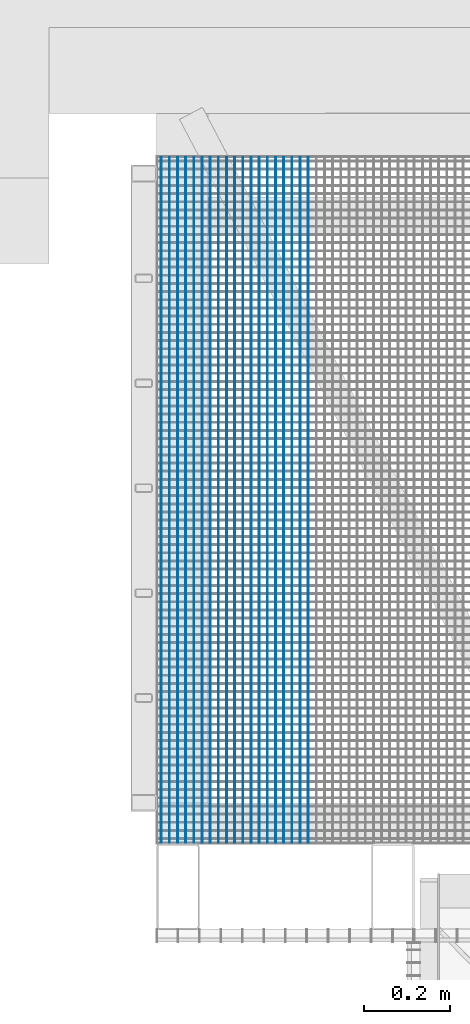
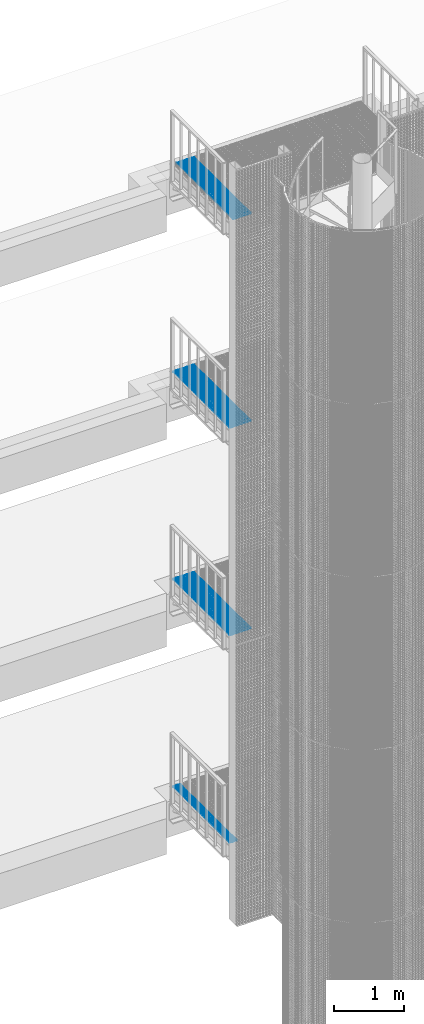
# One storey, part 91 of 1183: 61 beams, 4 elements without a shape of their own.
"""IFC2X3 building model written with IfcOpenShell, lengths in millimetres."""

from ifc_helpers import new_model, si_unit, frame, origin_with_axes, origin_2d_with_axis, place, context, subcontext, project, spatial, rectangle, extrude, material, type_object, element, aggregate, save


model = new_model("IFC2X3")

# Units and contexts
model_context = context("Model", 3, precision=1e-05, world=origin_with_axes())
body_context = subcontext(model_context, "Body", "Model", "MODEL_VIEW")
ifc_project = project(units=[si_unit("LENGTHUNIT", "METRE", prefix="MILLI"), si_unit("AREAUNIT", "SQUARE_METRE"), si_unit("VOLUMEUNIT", "CUBIC_METRE"), si_unit("MASSUNIT", "GRAM", prefix="KILO"), si_unit("TIMEUNIT", "SECOND"), si_unit("PLANEANGLEUNIT", "RADIAN"), si_unit("SOLIDANGLEUNIT", "STERADIAN"), si_unit("THERMODYNAMICTEMPERATUREUNIT", "DEGREE_CELSIUS"), si_unit("LUMINOUSINTENSITYUNIT", "LUMEN")], contexts=[model_context])

# Site, building, storey
site_placement = place(None, origin_with_axes())
site = spatial("IfcSite", under=ifc_project, at=site_placement, Name="Undefined", CompositionType="ELEMENT")
building_placement = place(site_placement, origin_with_axes())
building = spatial("IfcBuilding", under=site, at=building_placement, Name="Undefined", CompositionType="ELEMENT")
storey_placement = place(building_placement, origin_with_axes())
storey = spatial("IfcBuildingStorey", under=building, at=storey_placement, Name="Undefined", CompositionType="ELEMENT", Elevation=0.0)

# Assembly, beams
assembly_1_placement = place(storey_placement, origin_with_axes())
assembly_1 = element("IfcElementAssembly", 1, at=assembly_1_placement, inside=storey, Name="BORDURE", AssemblyPlace="NOTDEFINED", PredefinedType="NOTDEFINED")
ifc_material = material(Name="STEEL/S235JR")
beam_type = type_object("IfcBeamType", Name="PL2*10", PredefinedType="NOTDEFINED")
beam_1_placement = place(assembly_1_placement, frame((20118.1154247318, 1101.99502462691, 17285.0), z_axis=(0.0, 0.0, 1.0), x_axis=(-4.50599999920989e-06, 0.999999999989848, 0.0)))
beam_1 = element("IfcBeam", 2, at=beam_1_placement, type_object=beam_type, material=ifc_material, Name="ENTRETOISE", context=body_context, shape_type="SweptSolid", body=[
    extrude(rectangle(XDim=2.0, YDim=10.0, at=origin_2d_with_axis()), frame((1596.0000000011, -1.35186458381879e-18, -7.27595761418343e-12), z_axis=(-1.0, 0.0, 0.0), x_axis=(0.0, -1.0, 0.0)), (0.0, 0.0, 1.0), 1596.0),
])
beam_2_placement = place(assembly_1_placement, frame((20137.1154247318, 1101.99511814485, 17285.0), z_axis=(0.0, 0.0, 1.0), x_axis=(-4.50599999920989e-06, 0.999999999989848, 0.0)))
beam_2 = element("IfcBeam", 3, at=beam_2_placement, type_object=beam_type, material=ifc_material, Name="ENTRETOISE", context=body_context, shape_type="SweptSolid", body=[
    extrude(rectangle(XDim=2.0, YDim=10.0, at=origin_2d_with_axis()), frame((1596.0000000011, -1.35186458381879e-18, -7.27595761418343e-12), z_axis=(-1.0, 0.0, 0.0), x_axis=(0.0, -1.0, 0.0)), (0.0, 0.0, 1.0), 1596.0),
])
beam_3_placement = place(assembly_1_placement, frame((20156.1154247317, 1101.9952116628, 17285.0), z_axis=(0.0, 0.0, 1.0), x_axis=(-4.50599999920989e-06, 0.999999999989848, 0.0)))
beam_3 = element("IfcBeam", 4, at=beam_3_placement, type_object=beam_type, material=ifc_material, Name="ENTRETOISE", context=body_context, shape_type="SweptSolid", body=[
    extrude(rectangle(XDim=2.0, YDim=10.0, at=origin_2d_with_axis()), frame((1596.0000000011, -1.35186458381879e-18, -7.27595761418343e-12), z_axis=(-1.0, 0.0, 0.0), x_axis=(0.0, -1.0, 0.0)), (0.0, 0.0, 1.0), 1596.0),
])
beam_4_placement = place(assembly_1_placement, frame((20175.1154247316, 1101.99530518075, 17285.0), z_axis=(0.0, 0.0, 1.0), x_axis=(-4.50599999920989e-06, 0.999999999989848, 0.0)))
beam_4 = element("IfcBeam", 5, at=beam_4_placement, type_object=beam_type, material=ifc_material, Name="ENTRETOISE", context=body_context, shape_type="SweptSolid", body=[
    extrude(rectangle(XDim=2.0, YDim=10.0, at=origin_2d_with_axis()), frame((1596.0000000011, -1.35186458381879e-18, -7.27595761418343e-12), z_axis=(-1.0, 0.0, 0.0), x_axis=(0.0, -1.0, 0.0)), (0.0, 0.0, 1.0), 1596.0),
])
beam_5_placement = place(assembly_1_placement, frame((20194.1154247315, 1101.9953986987, 17285.0), z_axis=(0.0, 0.0, 1.0), x_axis=(-4.50599999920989e-06, 0.999999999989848, 0.0)))
beam_5 = element("IfcBeam", 6, at=beam_5_placement, type_object=beam_type, material=ifc_material, Name="ENTRETOISE", context=body_context, shape_type="SweptSolid", body=[
    extrude(rectangle(XDim=2.0, YDim=10.0, at=origin_2d_with_axis()), frame((1596.0000000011, -1.35186458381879e-18, -7.27595761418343e-12), z_axis=(-1.0, 0.0, 0.0), x_axis=(0.0, -1.0, 0.0)), (0.0, 0.0, 1.0), 1596.0),
])
beam_6_placement = place(assembly_1_placement, frame((20213.1154247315, 1101.99549221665, 17285.0), z_axis=(0.0, 0.0, 1.0), x_axis=(-4.50599999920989e-06, 0.999999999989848, 0.0)))
beam_6 = element("IfcBeam", 7, at=beam_6_placement, type_object=beam_type, material=ifc_material, Name="ENTRETOISE", context=body_context, shape_type="SweptSolid", body=[
    extrude(rectangle(XDim=2.0, YDim=10.0, at=origin_2d_with_axis()), frame((1596.0000000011, -1.35186458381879e-18, -7.27595761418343e-12), z_axis=(-1.0, 0.0, 0.0), x_axis=(0.0, -1.0, 0.0)), (0.0, 0.0, 1.0), 1596.0),
])
beam_7_placement = place(assembly_1_placement, frame((20232.1154247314, 1101.9955857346, 17285.0), z_axis=(0.0, 0.0, 1.0), x_axis=(-4.50599999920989e-06, 0.999999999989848, 0.0)))
beam_7 = element("IfcBeam", 8, at=beam_7_placement, type_object=beam_type, material=ifc_material, Name="ENTRETOISE", context=body_context, shape_type="SweptSolid", body=[
    extrude(rectangle(XDim=2.0, YDim=10.0, at=origin_2d_with_axis()), frame((1596.0000000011, -1.35186458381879e-18, -7.27595761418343e-12), z_axis=(-1.0, 0.0, 0.0), x_axis=(0.0, -1.0, 0.0)), (0.0, 0.0, 1.0), 1596.0),
])
beam_8_placement = place(assembly_1_placement, frame((20251.1154247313, 1101.99567925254, 17285.0), z_axis=(0.0, 0.0, 1.0), x_axis=(-4.50599999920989e-06, 0.999999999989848, 0.0)))
beam_8 = element("IfcBeam", 9, at=beam_8_placement, type_object=beam_type, material=ifc_material, Name="ENTRETOISE", context=body_context, shape_type="SweptSolid", body=[
    extrude(rectangle(XDim=2.0, YDim=10.0, at=origin_2d_with_axis()), frame((1596.0000000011, -1.35186458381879e-18, -7.27595761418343e-12), z_axis=(-1.0, 0.0, 0.0), x_axis=(0.0, -1.0, 0.0)), (0.0, 0.0, 1.0), 1596.0),
])
beam_9_placement = place(assembly_1_placement, frame((20270.1154247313, 1101.99577277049, 17285.0), z_axis=(0.0, 0.0, 1.0), x_axis=(-4.50599999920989e-06, 0.999999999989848, 0.0)))
beam_9 = element("IfcBeam", 10, at=beam_9_placement, type_object=beam_type, material=ifc_material, Name="ENTRETOISE", context=body_context, shape_type="SweptSolid", body=[
    extrude(rectangle(XDim=2.0, YDim=10.0, at=origin_2d_with_axis()), frame((1596.0000000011, -1.35186458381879e-18, -7.27595761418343e-12), z_axis=(-1.0, 0.0, 0.0), x_axis=(0.0, -1.0, 0.0)), (0.0, 0.0, 1.0), 1596.0),
])
beam_10_placement = place(assembly_1_placement, frame((20289.1154247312, 1101.99586628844, 17285.0), z_axis=(0.0, 0.0, 1.0), x_axis=(-4.50599999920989e-06, 0.999999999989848, 0.0)))
beam_10 = element("IfcBeam", 11, at=beam_10_placement, type_object=beam_type, material=ifc_material, Name="ENTRETOISE", context=body_context, shape_type="SweptSolid", body=[
    extrude(rectangle(XDim=2.0, YDim=10.0, at=origin_2d_with_axis()), frame((1596.0000000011, -1.35186458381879e-18, -7.27595761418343e-12), z_axis=(-1.0, 0.0, 0.0), x_axis=(0.0, -1.0, 0.0)), (0.0, 0.0, 1.0), 1596.0),
])
beam_11_placement = place(assembly_1_placement, frame((20308.1154247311, 1101.99595980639, 17285.0), z_axis=(0.0, 0.0, 1.0), x_axis=(-4.50599999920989e-06, 0.999999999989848, 0.0)))
beam_11 = element("IfcBeam", 12, at=beam_11_placement, type_object=beam_type, material=ifc_material, Name="ENTRETOISE", context=body_context, shape_type="SweptSolid", body=[
    extrude(rectangle(XDim=2.0, YDim=10.0, at=origin_2d_with_axis()), frame((1596.0000000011, -1.35186458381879e-18, -7.27595761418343e-12), z_axis=(-1.0, 0.0, 0.0), x_axis=(0.0, -1.0, 0.0)), (0.0, 0.0, 1.0), 1596.0),
])
beam_12_placement = place(assembly_1_placement, frame((20327.1154247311, 1101.99605332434, 17285.0), z_axis=(0.0, 0.0, 1.0), x_axis=(-4.50599999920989e-06, 0.999999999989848, 0.0)))
beam_12 = element("IfcBeam", 13, at=beam_12_placement, type_object=beam_type, material=ifc_material, Name="ENTRETOISE", context=body_context, shape_type="SweptSolid", body=[
    extrude(rectangle(XDim=2.0, YDim=10.0, at=origin_2d_with_axis()), frame((1596.0000000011, -1.35186458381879e-18, -7.27595761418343e-12), z_axis=(-1.0, 0.0, 0.0), x_axis=(0.0, -1.0, 0.0)), (0.0, 0.0, 1.0), 1596.0),
])
beam_13_placement = place(assembly_1_placement, frame((20346.115424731, 1101.99614684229, 17285.0), z_axis=(0.0, 0.0, 1.0), x_axis=(-4.50599999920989e-06, 0.999999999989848, 0.0)))
beam_13 = element("IfcBeam", 14, at=beam_13_placement, type_object=beam_type, material=ifc_material, Name="ENTRETOISE", context=body_context, shape_type="SweptSolid", body=[
    extrude(rectangle(XDim=2.0, YDim=10.0, at=origin_2d_with_axis()), frame((1596.0000000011, -1.35186458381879e-18, -7.27595761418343e-12), z_axis=(-1.0, 0.0, 0.0), x_axis=(0.0, -1.0, 0.0)), (0.0, 0.0, 1.0), 1596.0),
])
beam_14_placement = place(assembly_1_placement, frame((20365.1154247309, 1101.99624036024, 17285.0), z_axis=(0.0, 0.0, 1.0), x_axis=(-4.50599999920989e-06, 0.999999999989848, 0.0)))
beam_14 = element("IfcBeam", 15, at=beam_14_placement, type_object=beam_type, material=ifc_material, Name="ENTRETOISE", context=body_context, shape_type="SweptSolid", body=[
    extrude(rectangle(XDim=2.0, YDim=10.0, at=origin_2d_with_axis()), frame((1596.0000000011, -1.35186458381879e-18, -7.27595761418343e-12), z_axis=(-1.0, 0.0, 0.0), x_axis=(0.0, -1.0, 0.0)), (0.0, 0.0, 1.0), 1596.0),
])
beam_15_placement = place(assembly_1_placement, frame((20384.1154247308, 1101.99633387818, 17285.0), z_axis=(0.0, 0.0, 1.0), x_axis=(-4.50599999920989e-06, 0.999999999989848, 0.0)))
beam_15 = element("IfcBeam", 16, at=beam_15_placement, type_object=beam_type, material=ifc_material, Name="ENTRETOISE", context=body_context, shape_type="SweptSolid", body=[
    extrude(rectangle(XDim=2.0, YDim=10.0, at=origin_2d_with_axis()), frame((1596.0000000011, -1.35186458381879e-18, -7.27595761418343e-12), z_axis=(-1.0, 0.0, 0.0), x_axis=(0.0, -1.0, 0.0)), (0.0, 0.0, 1.0), 1596.0),
])
beam_16_placement = place(assembly_1_placement, frame((20403.1154247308, 1101.99642739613, 17285.0), z_axis=(0.0, 0.0, 1.0), x_axis=(-4.50599999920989e-06, 0.999999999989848, 0.0)))
beam_16 = element("IfcBeam", 17, at=beam_16_placement, type_object=beam_type, material=ifc_material, Name="ENTRETOISE", context=body_context, shape_type="SweptSolid", body=[
    extrude(rectangle(XDim=2.0, YDim=10.0, at=origin_2d_with_axis()), frame((1596.0000000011, -1.35186458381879e-18, -7.27595761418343e-12), z_axis=(-1.0, 0.0, 0.0), x_axis=(0.0, -1.0, 0.0)), (0.0, 0.0, 1.0), 1596.0),
])
aggregate(assembly_1, [beam_1, beam_2, beam_3, beam_4, beam_5, beam_6, beam_7, beam_8, beam_9, beam_10, beam_11, beam_12, beam_13, beam_14, beam_15, beam_16])

assembly_2_placement = place(storey_placement, origin_with_axes())
assembly_2 = element("IfcElementAssembly", 18, at=assembly_2_placement, inside=storey, Name="BORDURE", AssemblyPlace="NOTDEFINED", PredefinedType="NOTDEFINED")
beam_17_placement = place(assembly_2_placement, frame((20061.115424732, 1101.99474407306, 13685.0), z_axis=(0.0, 0.0, 1.0), x_axis=(-4.50599999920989e-06, 0.999999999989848, 0.0)))
beam_17 = element("IfcBeam", 19, at=beam_17_placement, type_object=beam_type, material=ifc_material, Name="ENTRETOISE", context=body_context, shape_type="SweptSolid", body=[
    extrude(rectangle(XDim=2.0, YDim=10.0, at=origin_2d_with_axis()), frame((1596.0000000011, -1.35186458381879e-18, -7.27595761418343e-12), z_axis=(-1.0, 0.0, 0.0), x_axis=(0.0, -1.0, 0.0)), (0.0, 0.0, 1.0), 1596.0),
])
beam_18_placement = place(assembly_2_placement, frame((20080.115424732, 1101.99483759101, 13685.0), z_axis=(0.0, 0.0, 1.0), x_axis=(-4.50599999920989e-06, 0.999999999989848, 0.0)))
beam_18 = element("IfcBeam", 20, at=beam_18_placement, type_object=beam_type, material=ifc_material, Name="ENTRETOISE", context=body_context, shape_type="SweptSolid", body=[
    extrude(rectangle(XDim=2.0, YDim=10.0, at=origin_2d_with_axis()), frame((1596.0000000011, -1.35186458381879e-18, -7.27595761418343e-12), z_axis=(-1.0, 0.0, 0.0), x_axis=(0.0, -1.0, 0.0)), (0.0, 0.0, 1.0), 1596.0),
])
beam_19_placement = place(assembly_2_placement, frame((20099.1154247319, 1101.99493110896, 13685.0), z_axis=(0.0, 0.0, 1.0), x_axis=(-4.50599999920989e-06, 0.999999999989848, 0.0)))
beam_19 = element("IfcBeam", 21, at=beam_19_placement, type_object=beam_type, material=ifc_material, Name="ENTRETOISE", context=body_context, shape_type="SweptSolid", body=[
    extrude(rectangle(XDim=2.0, YDim=10.0, at=origin_2d_with_axis()), frame((1596.0000000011, -1.35186458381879e-18, -7.27595761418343e-12), z_axis=(-1.0, 0.0, 0.0), x_axis=(0.0, -1.0, 0.0)), (0.0, 0.0, 1.0), 1596.0),
])
beam_20_placement = place(assembly_2_placement, frame((20118.1154247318, 1101.99502462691, 13685.0), z_axis=(0.0, 0.0, 1.0), x_axis=(-4.50599999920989e-06, 0.999999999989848, 0.0)))
beam_20 = element("IfcBeam", 22, at=beam_20_placement, type_object=beam_type, material=ifc_material, Name="ENTRETOISE", context=body_context, shape_type="SweptSolid", body=[
    extrude(rectangle(XDim=2.0, YDim=10.0, at=origin_2d_with_axis()), frame((1596.0000000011, -1.35186458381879e-18, -7.27595761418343e-12), z_axis=(-1.0, 0.0, 0.0), x_axis=(0.0, -1.0, 0.0)), (0.0, 0.0, 1.0), 1596.0),
])
beam_21_placement = place(assembly_2_placement, frame((20137.1154247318, 1101.99511814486, 13685.0), z_axis=(0.0, 0.0, 1.0), x_axis=(-4.50599999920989e-06, 0.999999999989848, 0.0)))
beam_21 = element("IfcBeam", 23, at=beam_21_placement, type_object=beam_type, material=ifc_material, Name="ENTRETOISE", context=body_context, shape_type="SweptSolid", body=[
    extrude(rectangle(XDim=2.0, YDim=10.0, at=origin_2d_with_axis()), frame((1596.0000000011, -1.35186458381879e-18, -7.27595761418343e-12), z_axis=(-1.0, 0.0, 0.0), x_axis=(0.0, -1.0, 0.0)), (0.0, 0.0, 1.0), 1596.0),
])
beam_22_placement = place(assembly_2_placement, frame((20156.1154247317, 1101.9952116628, 13685.0), z_axis=(0.0, 0.0, 1.0), x_axis=(-4.50599999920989e-06, 0.999999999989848, 0.0)))
beam_22 = element("IfcBeam", 24, at=beam_22_placement, type_object=beam_type, material=ifc_material, Name="ENTRETOISE", context=body_context, shape_type="SweptSolid", body=[
    extrude(rectangle(XDim=2.0, YDim=10.0, at=origin_2d_with_axis()), frame((1596.0000000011, -1.35186458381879e-18, -7.27595761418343e-12), z_axis=(-1.0, 0.0, 0.0), x_axis=(0.0, -1.0, 0.0)), (0.0, 0.0, 1.0), 1596.0),
])
beam_23_placement = place(assembly_2_placement, frame((20175.1154247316, 1101.99530518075, 13685.0), z_axis=(0.0, 0.0, 1.0), x_axis=(-4.50599999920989e-06, 0.999999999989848, 0.0)))
beam_23 = element("IfcBeam", 25, at=beam_23_placement, type_object=beam_type, material=ifc_material, Name="ENTRETOISE", context=body_context, shape_type="SweptSolid", body=[
    extrude(rectangle(XDim=2.0, YDim=10.0, at=origin_2d_with_axis()), frame((1596.0000000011, -1.35186458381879e-18, -7.27595761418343e-12), z_axis=(-1.0, 0.0, 0.0), x_axis=(0.0, -1.0, 0.0)), (0.0, 0.0, 1.0), 1596.0),
])
beam_24_placement = place(assembly_2_placement, frame((20194.1154247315, 1101.9953986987, 13685.0), z_axis=(0.0, 0.0, 1.0), x_axis=(-4.50599999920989e-06, 0.999999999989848, 0.0)))
beam_24 = element("IfcBeam", 26, at=beam_24_placement, type_object=beam_type, material=ifc_material, Name="ENTRETOISE", context=body_context, shape_type="SweptSolid", body=[
    extrude(rectangle(XDim=2.0, YDim=10.0, at=origin_2d_with_axis()), frame((1596.0000000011, -1.35186458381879e-18, -7.27595761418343e-12), z_axis=(-1.0, 0.0, 0.0), x_axis=(0.0, -1.0, 0.0)), (0.0, 0.0, 1.0), 1596.0),
])
beam_25_placement = place(assembly_2_placement, frame((20213.1154247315, 1101.99549221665, 13685.0), z_axis=(0.0, 0.0, 1.0), x_axis=(-4.50599999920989e-06, 0.999999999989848, 0.0)))
beam_25 = element("IfcBeam", 27, at=beam_25_placement, type_object=beam_type, material=ifc_material, Name="ENTRETOISE", context=body_context, shape_type="SweptSolid", body=[
    extrude(rectangle(XDim=2.0, YDim=10.0, at=origin_2d_with_axis()), frame((1596.0000000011, -1.35186458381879e-18, -7.27595761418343e-12), z_axis=(-1.0, 0.0, 0.0), x_axis=(0.0, -1.0, 0.0)), (0.0, 0.0, 1.0), 1596.0),
])
beam_26_placement = place(assembly_2_placement, frame((20232.1154247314, 1101.9955857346, 13685.0), z_axis=(0.0, 0.0, 1.0), x_axis=(-4.50599999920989e-06, 0.999999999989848, 0.0)))
beam_26 = element("IfcBeam", 28, at=beam_26_placement, type_object=beam_type, material=ifc_material, Name="ENTRETOISE", context=body_context, shape_type="SweptSolid", body=[
    extrude(rectangle(XDim=2.0, YDim=10.0, at=origin_2d_with_axis()), frame((1596.0000000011, -1.35186458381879e-18, -7.27595761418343e-12), z_axis=(-1.0, 0.0, 0.0), x_axis=(0.0, -1.0, 0.0)), (0.0, 0.0, 1.0), 1596.0),
])
beam_27_placement = place(assembly_2_placement, frame((20251.1154247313, 1101.99567925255, 13685.0), z_axis=(0.0, 0.0, 1.0), x_axis=(-4.50599999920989e-06, 0.999999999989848, 0.0)))
beam_27 = element("IfcBeam", 29, at=beam_27_placement, type_object=beam_type, material=ifc_material, Name="ENTRETOISE", context=body_context, shape_type="SweptSolid", body=[
    extrude(rectangle(XDim=2.0, YDim=10.0, at=origin_2d_with_axis()), frame((1596.0000000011, -1.35186458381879e-18, -7.27595761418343e-12), z_axis=(-1.0, 0.0, 0.0), x_axis=(0.0, -1.0, 0.0)), (0.0, 0.0, 1.0), 1596.0),
])
beam_28_placement = place(assembly_2_placement, frame((20270.1154247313, 1101.99577277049, 13685.0), z_axis=(0.0, 0.0, 1.0), x_axis=(-4.50599999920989e-06, 0.999999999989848, 0.0)))
beam_28 = element("IfcBeam", 30, at=beam_28_placement, type_object=beam_type, material=ifc_material, Name="ENTRETOISE", context=body_context, shape_type="SweptSolid", body=[
    extrude(rectangle(XDim=2.0, YDim=10.0, at=origin_2d_with_axis()), frame((1596.0000000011, -1.35186458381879e-18, -7.27595761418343e-12), z_axis=(-1.0, 0.0, 0.0), x_axis=(0.0, -1.0, 0.0)), (0.0, 0.0, 1.0), 1596.0),
])
beam_29_placement = place(assembly_2_placement, frame((20289.1154247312, 1101.99586628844, 13685.0), z_axis=(0.0, 0.0, 1.0), x_axis=(-4.50599999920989e-06, 0.999999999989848, 0.0)))
beam_29 = element("IfcBeam", 31, at=beam_29_placement, type_object=beam_type, material=ifc_material, Name="ENTRETOISE", context=body_context, shape_type="SweptSolid", body=[
    extrude(rectangle(XDim=2.0, YDim=10.0, at=origin_2d_with_axis()), frame((1596.0000000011, -1.35186458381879e-18, -7.27595761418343e-12), z_axis=(-1.0, 0.0, 0.0), x_axis=(0.0, -1.0, 0.0)), (0.0, 0.0, 1.0), 1596.0),
])
beam_30_placement = place(assembly_2_placement, frame((20308.1154247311, 1101.99595980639, 13685.0), z_axis=(0.0, 0.0, 1.0), x_axis=(-4.50599999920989e-06, 0.999999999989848, 0.0)))
beam_30 = element("IfcBeam", 32, at=beam_30_placement, type_object=beam_type, material=ifc_material, Name="ENTRETOISE", context=body_context, shape_type="SweptSolid", body=[
    extrude(rectangle(XDim=2.0, YDim=10.0, at=origin_2d_with_axis()), frame((1596.0000000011, -1.35186458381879e-18, -7.27595761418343e-12), z_axis=(-1.0, 0.0, 0.0), x_axis=(0.0, -1.0, 0.0)), (0.0, 0.0, 1.0), 1596.0),
])
beam_31_placement = place(assembly_2_placement, frame((20327.1154247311, 1101.99605332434, 13685.0), z_axis=(0.0, 0.0, 1.0), x_axis=(-4.50599999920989e-06, 0.999999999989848, 0.0)))
beam_31 = element("IfcBeam", 33, at=beam_31_placement, type_object=beam_type, material=ifc_material, Name="ENTRETOISE", context=body_context, shape_type="SweptSolid", body=[
    extrude(rectangle(XDim=2.0, YDim=10.0, at=origin_2d_with_axis()), frame((1596.0000000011, -1.35186458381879e-18, -7.27595761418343e-12), z_axis=(-1.0, 0.0, 0.0), x_axis=(0.0, -1.0, 0.0)), (0.0, 0.0, 1.0), 1596.0),
])
beam_32_placement = place(assembly_2_placement, frame((20346.115424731, 1101.99614684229, 13685.0), z_axis=(0.0, 0.0, 1.0), x_axis=(-4.50599999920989e-06, 0.999999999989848, 0.0)))
beam_32 = element("IfcBeam", 34, at=beam_32_placement, type_object=beam_type, material=ifc_material, Name="ENTRETOISE", context=body_context, shape_type="SweptSolid", body=[
    extrude(rectangle(XDim=2.0, YDim=10.0, at=origin_2d_with_axis()), frame((1596.0000000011, -1.35186458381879e-18, -7.27595761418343e-12), z_axis=(-1.0, 0.0, 0.0), x_axis=(0.0, -1.0, 0.0)), (0.0, 0.0, 1.0), 1596.0),
])
beam_33_placement = place(assembly_2_placement, frame((20365.1154247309, 1101.99624036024, 13685.0), z_axis=(0.0, 0.0, 1.0), x_axis=(-4.50599999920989e-06, 0.999999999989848, 0.0)))
beam_33 = element("IfcBeam", 35, at=beam_33_placement, type_object=beam_type, material=ifc_material, Name="ENTRETOISE", context=body_context, shape_type="SweptSolid", body=[
    extrude(rectangle(XDim=2.0, YDim=10.0, at=origin_2d_with_axis()), frame((1596.0000000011, -1.35186458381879e-18, -7.27595761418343e-12), z_axis=(-1.0, 0.0, 0.0), x_axis=(0.0, -1.0, 0.0)), (0.0, 0.0, 1.0), 1596.0),
])
beam_34_placement = place(assembly_2_placement, frame((20384.1154247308, 1101.99633387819, 13685.0), z_axis=(0.0, 0.0, 1.0), x_axis=(-4.50599999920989e-06, 0.999999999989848, 0.0)))
beam_34 = element("IfcBeam", 36, at=beam_34_placement, type_object=beam_type, material=ifc_material, Name="ENTRETOISE", context=body_context, shape_type="SweptSolid", body=[
    extrude(rectangle(XDim=2.0, YDim=10.0, at=origin_2d_with_axis()), frame((1596.0000000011, -1.35186458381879e-18, -7.27595761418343e-12), z_axis=(-1.0, 0.0, 0.0), x_axis=(0.0, -1.0, 0.0)), (0.0, 0.0, 1.0), 1596.0),
])
beam_35_placement = place(assembly_2_placement, frame((20403.1154247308, 1101.99642739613, 13685.0), z_axis=(0.0, 0.0, 1.0), x_axis=(-4.50599999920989e-06, 0.999999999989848, 0.0)))
beam_35 = element("IfcBeam", 37, at=beam_35_placement, type_object=beam_type, material=ifc_material, Name="ENTRETOISE", context=body_context, shape_type="SweptSolid", body=[
    extrude(rectangle(XDim=2.0, YDim=10.0, at=origin_2d_with_axis()), frame((1596.0000000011, -1.35186458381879e-18, -7.27595761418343e-12), z_axis=(-1.0, 0.0, 0.0), x_axis=(0.0, -1.0, 0.0)), (0.0, 0.0, 1.0), 1596.0),
])
aggregate(assembly_2, [beam_17, beam_18, beam_19, beam_20, beam_21, beam_22, beam_23, beam_24, beam_25, beam_26, beam_27, beam_28, beam_29, beam_30, beam_31, beam_32, beam_33, beam_34, beam_35])

assembly_3_placement = place(storey_placement, origin_with_axes())
assembly_3 = element("IfcElementAssembly", 38, at=assembly_3_placement, inside=storey, Name="BORDURE", AssemblyPlace="NOTDEFINED", PredefinedType="NOTDEFINED")
beam_36_placement = place(assembly_3_placement, frame((20061.115424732, 1101.99474407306, 10085.0), z_axis=(0.0, 0.0, 1.0), x_axis=(-4.50599999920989e-06, 0.999999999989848, 0.0)))
beam_36 = element("IfcBeam", 39, at=beam_36_placement, type_object=beam_type, material=ifc_material, Name="ENTRETOISE", context=body_context, shape_type="SweptSolid", body=[
    extrude(rectangle(XDim=2.0, YDim=10.0, at=origin_2d_with_axis()), frame((1596.0000000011, -1.35186458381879e-18, -7.27595761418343e-12), z_axis=(-1.0, 0.0, 0.0), x_axis=(0.0, -1.0, 0.0)), (0.0, 0.0, 1.0), 1596.0),
])
beam_37_placement = place(assembly_3_placement, frame((20080.115424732, 1101.99483759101, 10085.0), z_axis=(0.0, 0.0, 1.0), x_axis=(-4.50599999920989e-06, 0.999999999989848, 0.0)))
beam_37 = element("IfcBeam", 40, at=beam_37_placement, type_object=beam_type, material=ifc_material, Name="ENTRETOISE", context=body_context, shape_type="SweptSolid", body=[
    extrude(rectangle(XDim=2.0, YDim=10.0, at=origin_2d_with_axis()), frame((1596.0000000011, -1.35186458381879e-18, -7.27595761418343e-12), z_axis=(-1.0, 0.0, 0.0), x_axis=(0.0, -1.0, 0.0)), (0.0, 0.0, 1.0), 1596.0),
])
beam_38_placement = place(assembly_3_placement, frame((20099.1154247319, 1101.99493110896, 10085.0), z_axis=(0.0, 0.0, 1.0), x_axis=(-4.50599999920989e-06, 0.999999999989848, 0.0)))
beam_38 = element("IfcBeam", 41, at=beam_38_placement, type_object=beam_type, material=ifc_material, Name="ENTRETOISE", context=body_context, shape_type="SweptSolid", body=[
    extrude(rectangle(XDim=2.0, YDim=10.0, at=origin_2d_with_axis()), frame((1596.0000000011, -1.35186458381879e-18, -7.27595761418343e-12), z_axis=(-1.0, 0.0, 0.0), x_axis=(0.0, -1.0, 0.0)), (0.0, 0.0, 1.0), 1596.0),
])
beam_39_placement = place(assembly_3_placement, frame((20118.1154247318, 1101.99502462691, 10085.0), z_axis=(0.0, 0.0, 1.0), x_axis=(-4.50599999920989e-06, 0.999999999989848, 0.0)))
beam_39 = element("IfcBeam", 42, at=beam_39_placement, type_object=beam_type, material=ifc_material, Name="ENTRETOISE", context=body_context, shape_type="SweptSolid", body=[
    extrude(rectangle(XDim=2.0, YDim=10.0, at=origin_2d_with_axis()), frame((1596.0000000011, -1.35186458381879e-18, -7.27595761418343e-12), z_axis=(-1.0, 0.0, 0.0), x_axis=(0.0, -1.0, 0.0)), (0.0, 0.0, 1.0), 1596.0),
])
beam_40_placement = place(assembly_3_placement, frame((20137.1154247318, 1101.99511814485, 10085.0), z_axis=(0.0, 0.0, 1.0), x_axis=(-4.50599999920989e-06, 0.999999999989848, 0.0)))
beam_40 = element("IfcBeam", 43, at=beam_40_placement, type_object=beam_type, material=ifc_material, Name="ENTRETOISE", context=body_context, shape_type="SweptSolid", body=[
    extrude(rectangle(XDim=2.0, YDim=10.0, at=origin_2d_with_axis()), frame((1596.0000000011, -1.35186458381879e-18, -7.27595761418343e-12), z_axis=(-1.0, 0.0, 0.0), x_axis=(0.0, -1.0, 0.0)), (0.0, 0.0, 1.0), 1596.0),
])
beam_41_placement = place(assembly_3_placement, frame((20156.1154247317, 1101.9952116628, 10085.0), z_axis=(0.0, 0.0, 1.0), x_axis=(-4.50599999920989e-06, 0.999999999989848, 0.0)))
beam_41 = element("IfcBeam", 44, at=beam_41_placement, type_object=beam_type, material=ifc_material, Name="ENTRETOISE", context=body_context, shape_type="SweptSolid", body=[
    extrude(rectangle(XDim=2.0, YDim=10.0, at=origin_2d_with_axis()), frame((1596.0000000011, -1.35186458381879e-18, -7.27595761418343e-12), z_axis=(-1.0, 0.0, 0.0), x_axis=(0.0, -1.0, 0.0)), (0.0, 0.0, 1.0), 1596.0),
])
beam_42_placement = place(assembly_3_placement, frame((20175.1154247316, 1101.99530518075, 10085.0), z_axis=(0.0, 0.0, 1.0), x_axis=(-4.50599999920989e-06, 0.999999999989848, 0.0)))
beam_42 = element("IfcBeam", 45, at=beam_42_placement, type_object=beam_type, material=ifc_material, Name="ENTRETOISE", context=body_context, shape_type="SweptSolid", body=[
    extrude(rectangle(XDim=2.0, YDim=10.0, at=origin_2d_with_axis()), frame((1596.0000000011, -1.35186458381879e-18, -7.27595761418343e-12), z_axis=(-1.0, 0.0, 0.0), x_axis=(0.0, -1.0, 0.0)), (0.0, 0.0, 1.0), 1596.0),
])
beam_43_placement = place(assembly_3_placement, frame((20194.1154247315, 1101.9953986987, 10085.0), z_axis=(0.0, 0.0, 1.0), x_axis=(-4.50599999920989e-06, 0.999999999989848, 0.0)))
beam_43 = element("IfcBeam", 46, at=beam_43_placement, type_object=beam_type, material=ifc_material, Name="ENTRETOISE", context=body_context, shape_type="SweptSolid", body=[
    extrude(rectangle(XDim=2.0, YDim=10.0, at=origin_2d_with_axis()), frame((1596.0000000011, -1.35186458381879e-18, -7.27595761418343e-12), z_axis=(-1.0, 0.0, 0.0), x_axis=(0.0, -1.0, 0.0)), (0.0, 0.0, 1.0), 1596.0),
])
beam_44_placement = place(assembly_3_placement, frame((20213.1154247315, 1101.99549221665, 10085.0), z_axis=(0.0, 0.0, 1.0), x_axis=(-4.50599999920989e-06, 0.999999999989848, 0.0)))
beam_44 = element("IfcBeam", 47, at=beam_44_placement, type_object=beam_type, material=ifc_material, Name="ENTRETOISE", context=body_context, shape_type="SweptSolid", body=[
    extrude(rectangle(XDim=2.0, YDim=10.0, at=origin_2d_with_axis()), frame((1596.0000000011, -1.35186458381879e-18, -7.27595761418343e-12), z_axis=(-1.0, 0.0, 0.0), x_axis=(0.0, -1.0, 0.0)), (0.0, 0.0, 1.0), 1596.0),
])
beam_45_placement = place(assembly_3_placement, frame((20232.1154247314, 1101.9955857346, 10085.0), z_axis=(0.0, 0.0, 1.0), x_axis=(-4.50599999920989e-06, 0.999999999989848, 0.0)))
beam_45 = element("IfcBeam", 48, at=beam_45_placement, type_object=beam_type, material=ifc_material, Name="ENTRETOISE", context=body_context, shape_type="SweptSolid", body=[
    extrude(rectangle(XDim=2.0, YDim=10.0, at=origin_2d_with_axis()), frame((1596.0000000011, -1.35186458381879e-18, -7.27595761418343e-12), z_axis=(-1.0, 0.0, 0.0), x_axis=(0.0, -1.0, 0.0)), (0.0, 0.0, 1.0), 1596.0),
])
beam_46_placement = place(assembly_3_placement, frame((20251.1154247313, 1101.99567925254, 10085.0), z_axis=(0.0, 0.0, 1.0), x_axis=(-4.50599999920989e-06, 0.999999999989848, 0.0)))
beam_46 = element("IfcBeam", 49, at=beam_46_placement, type_object=beam_type, material=ifc_material, Name="ENTRETOISE", context=body_context, shape_type="SweptSolid", body=[
    extrude(rectangle(XDim=2.0, YDim=10.0, at=origin_2d_with_axis()), frame((1596.0000000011, -1.35186458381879e-18, -7.27595761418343e-12), z_axis=(-1.0, 0.0, 0.0), x_axis=(0.0, -1.0, 0.0)), (0.0, 0.0, 1.0), 1596.0),
])
beam_47_placement = place(assembly_3_placement, frame((20270.1154247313, 1101.99577277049, 10085.0), z_axis=(0.0, 0.0, 1.0), x_axis=(-4.50599999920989e-06, 0.999999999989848, 0.0)))
beam_47 = element("IfcBeam", 50, at=beam_47_placement, type_object=beam_type, material=ifc_material, Name="ENTRETOISE", context=body_context, shape_type="SweptSolid", body=[
    extrude(rectangle(XDim=2.0, YDim=10.0, at=origin_2d_with_axis()), frame((1596.0000000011, -1.35186458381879e-18, -7.27595761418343e-12), z_axis=(-1.0, 0.0, 0.0), x_axis=(0.0, -1.0, 0.0)), (0.0, 0.0, 1.0), 1596.0),
])
beam_48_placement = place(assembly_3_placement, frame((20289.1154247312, 1101.99586628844, 10085.0), z_axis=(0.0, 0.0, 1.0), x_axis=(-4.50599999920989e-06, 0.999999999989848, 0.0)))
beam_48 = element("IfcBeam", 51, at=beam_48_placement, type_object=beam_type, material=ifc_material, Name="ENTRETOISE", context=body_context, shape_type="SweptSolid", body=[
    extrude(rectangle(XDim=2.0, YDim=10.0, at=origin_2d_with_axis()), frame((1596.0000000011, -1.35186458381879e-18, -7.27595761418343e-12), z_axis=(-1.0, 0.0, 0.0), x_axis=(0.0, -1.0, 0.0)), (0.0, 0.0, 1.0), 1596.0),
])
beam_49_placement = place(assembly_3_placement, frame((20308.1154247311, 1101.99595980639, 10085.0), z_axis=(0.0, 0.0, 1.0), x_axis=(-4.50599999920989e-06, 0.999999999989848, 0.0)))
beam_49 = element("IfcBeam", 52, at=beam_49_placement, type_object=beam_type, material=ifc_material, Name="ENTRETOISE", context=body_context, shape_type="SweptSolid", body=[
    extrude(rectangle(XDim=2.0, YDim=10.0, at=origin_2d_with_axis()), frame((1596.0000000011, -1.35186458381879e-18, -7.27595761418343e-12), z_axis=(-1.0, 0.0, 0.0), x_axis=(0.0, -1.0, 0.0)), (0.0, 0.0, 1.0), 1596.0),
])
beam_50_placement = place(assembly_3_placement, frame((20327.115424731, 1101.99605332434, 10085.0), z_axis=(0.0, 0.0, 1.0), x_axis=(-4.50599999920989e-06, 0.999999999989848, 0.0)))
beam_50 = element("IfcBeam", 53, at=beam_50_placement, type_object=beam_type, material=ifc_material, Name="ENTRETOISE", context=body_context, shape_type="SweptSolid", body=[
    extrude(rectangle(XDim=2.0, YDim=10.0, at=origin_2d_with_axis()), frame((1596.0000000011, -1.35186458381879e-18, -7.27595761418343e-12), z_axis=(-1.0, 0.0, 0.0), x_axis=(0.0, -1.0, 0.0)), (0.0, 0.0, 1.0), 1596.0),
])
beam_51_placement = place(assembly_3_placement, frame((20346.115424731, 1101.99614684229, 10085.0), z_axis=(0.0, 0.0, 1.0), x_axis=(-4.50599999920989e-06, 0.999999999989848, 0.0)))
beam_51 = element("IfcBeam", 54, at=beam_51_placement, type_object=beam_type, material=ifc_material, Name="ENTRETOISE", context=body_context, shape_type="SweptSolid", body=[
    extrude(rectangle(XDim=2.0, YDim=10.0, at=origin_2d_with_axis()), frame((1596.0000000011, -1.35186458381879e-18, -7.27595761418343e-12), z_axis=(-1.0, 0.0, 0.0), x_axis=(0.0, -1.0, 0.0)), (0.0, 0.0, 1.0), 1596.0),
])
beam_52_placement = place(assembly_3_placement, frame((20365.1154247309, 1101.99624036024, 10085.0), z_axis=(0.0, 0.0, 1.0), x_axis=(-4.50599999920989e-06, 0.999999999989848, 0.0)))
beam_52 = element("IfcBeam", 55, at=beam_52_placement, type_object=beam_type, material=ifc_material, Name="ENTRETOISE", context=body_context, shape_type="SweptSolid", body=[
    extrude(rectangle(XDim=2.0, YDim=10.0, at=origin_2d_with_axis()), frame((1596.0000000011, -1.35186458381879e-18, -7.27595761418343e-12), z_axis=(-1.0, 0.0, 0.0), x_axis=(0.0, -1.0, 0.0)), (0.0, 0.0, 1.0), 1596.0),
])
beam_53_placement = place(assembly_3_placement, frame((20384.1154247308, 1101.99633387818, 10085.0), z_axis=(0.0, 0.0, 1.0), x_axis=(-4.50599999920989e-06, 0.999999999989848, 0.0)))
beam_53 = element("IfcBeam", 56, at=beam_53_placement, type_object=beam_type, material=ifc_material, Name="ENTRETOISE", context=body_context, shape_type="SweptSolid", body=[
    extrude(rectangle(XDim=2.0, YDim=10.0, at=origin_2d_with_axis()), frame((1596.0000000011, -1.35186458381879e-18, -7.27595761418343e-12), z_axis=(-1.0, 0.0, 0.0), x_axis=(0.0, -1.0, 0.0)), (0.0, 0.0, 1.0), 1596.0),
])
beam_54_placement = place(assembly_3_placement, frame((20403.1154247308, 1101.99642739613, 10085.0), z_axis=(0.0, 0.0, 1.0), x_axis=(-4.50599999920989e-06, 0.999999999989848, 0.0)))
beam_54 = element("IfcBeam", 57, at=beam_54_placement, type_object=beam_type, material=ifc_material, Name="ENTRETOISE", context=body_context, shape_type="SweptSolid", body=[
    extrude(rectangle(XDim=2.0, YDim=10.0, at=origin_2d_with_axis()), frame((1596.0000000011, -1.35186458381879e-18, -7.27595761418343e-12), z_axis=(-1.0, 0.0, 0.0), x_axis=(0.0, -1.0, 0.0)), (0.0, 0.0, 1.0), 1596.0),
])
aggregate(assembly_3, [beam_36, beam_37, beam_38, beam_39, beam_40, beam_41, beam_42, beam_43, beam_44, beam_45, beam_46, beam_47, beam_48, beam_49, beam_50, beam_51, beam_52, beam_53, beam_54])

assembly_4_placement = place(storey_placement, origin_with_axes())
assembly_4 = element("IfcElementAssembly", 58, at=assembly_4_placement, inside=storey, Name="BORDURE", AssemblyPlace="NOTDEFINED", PredefinedType="NOTDEFINED")
beam_55_placement = place(assembly_4_placement, frame((20061.115424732, 1101.99474407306, 6485.0), z_axis=(0.0, 0.0, 1.0), x_axis=(-4.50599999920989e-06, 0.999999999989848, 0.0)))
beam_55 = element("IfcBeam", 59, at=beam_55_placement, type_object=beam_type, material=ifc_material, Name="ENTRETOISE", context=body_context, shape_type="SweptSolid", body=[
    extrude(rectangle(XDim=2.0, YDim=10.0, at=origin_2d_with_axis()), frame((1596.0000000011, -1.35186458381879e-18, -7.27595761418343e-12), z_axis=(-1.0, 0.0, 0.0), x_axis=(0.0, -1.0, 0.0)), (0.0, 0.0, 1.0), 1596.0),
])
beam_56_placement = place(assembly_4_placement, frame((20080.115424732, 1101.99483759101, 6485.0), z_axis=(0.0, 0.0, 1.0), x_axis=(-4.50599999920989e-06, 0.999999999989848, 0.0)))
beam_56 = element("IfcBeam", 60, at=beam_56_placement, type_object=beam_type, material=ifc_material, Name="ENTRETOISE", context=body_context, shape_type="SweptSolid", body=[
    extrude(rectangle(XDim=2.0, YDim=10.0, at=origin_2d_with_axis()), frame((1596.0000000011, -1.35186458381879e-18, -7.27595761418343e-12), z_axis=(-1.0, 0.0, 0.0), x_axis=(0.0, -1.0, 0.0)), (0.0, 0.0, 1.0), 1596.0),
])
beam_57_placement = place(assembly_4_placement, frame((20099.1154247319, 1101.99493110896, 6485.0), z_axis=(0.0, 0.0, 1.0), x_axis=(-4.50599999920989e-06, 0.999999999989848, 0.0)))
beam_57 = element("IfcBeam", 61, at=beam_57_placement, type_object=beam_type, material=ifc_material, Name="ENTRETOISE", context=body_context, shape_type="SweptSolid", body=[
    extrude(rectangle(XDim=2.0, YDim=10.0, at=origin_2d_with_axis()), frame((1596.0000000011, -1.35186458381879e-18, -7.27595761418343e-12), z_axis=(-1.0, 0.0, 0.0), x_axis=(0.0, -1.0, 0.0)), (0.0, 0.0, 1.0), 1596.0),
])
beam_58_placement = place(assembly_4_placement, frame((20118.1154247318, 1101.99502462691, 6485.0), z_axis=(0.0, 0.0, 1.0), x_axis=(-4.50599999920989e-06, 0.999999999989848, 0.0)))
beam_58 = element("IfcBeam", 62, at=beam_58_placement, type_object=beam_type, material=ifc_material, Name="ENTRETOISE", context=body_context, shape_type="SweptSolid", body=[
    extrude(rectangle(XDim=2.0, YDim=10.0, at=origin_2d_with_axis()), frame((1596.0000000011, -1.35186458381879e-18, -7.27595761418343e-12), z_axis=(-1.0, 0.0, 0.0), x_axis=(0.0, -1.0, 0.0)), (0.0, 0.0, 1.0), 1596.0),
])
beam_59_placement = place(assembly_4_placement, frame((20137.1154247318, 1101.99511814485, 6485.0), z_axis=(0.0, 0.0, 1.0), x_axis=(-4.50599999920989e-06, 0.999999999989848, 0.0)))
beam_59 = element("IfcBeam", 63, at=beam_59_placement, type_object=beam_type, material=ifc_material, Name="ENTRETOISE", context=body_context, shape_type="SweptSolid", body=[
    extrude(rectangle(XDim=2.0, YDim=10.0, at=origin_2d_with_axis()), frame((1596.0000000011, -1.35186458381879e-18, -7.27595761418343e-12), z_axis=(-1.0, 0.0, 0.0), x_axis=(0.0, -1.0, 0.0)), (0.0, 0.0, 1.0), 1596.0),
])
beam_60_placement = place(assembly_4_placement, frame((20156.1154247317, 1101.9952116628, 6485.0), z_axis=(0.0, 0.0, 1.0), x_axis=(-4.50599999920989e-06, 0.999999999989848, 0.0)))
beam_60 = element("IfcBeam", 64, at=beam_60_placement, type_object=beam_type, material=ifc_material, Name="ENTRETOISE", context=body_context, shape_type="SweptSolid", body=[
    extrude(rectangle(XDim=2.0, YDim=10.0, at=origin_2d_with_axis()), frame((1596.0000000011, -1.35186458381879e-18, -7.27595761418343e-12), z_axis=(-1.0, 0.0, 0.0), x_axis=(0.0, -1.0, 0.0)), (0.0, 0.0, 1.0), 1596.0),
])
beam_61_placement = place(assembly_4_placement, frame((20175.1154247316, 1101.99530518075, 6485.0), z_axis=(0.0, 0.0, 1.0), x_axis=(-4.50599999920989e-06, 0.999999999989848, 0.0)))
beam_61 = element("IfcBeam", 65, at=beam_61_placement, type_object=beam_type, material=ifc_material, Name="ENTRETOISE", context=body_context, shape_type="SweptSolid", body=[
    extrude(rectangle(XDim=2.0, YDim=10.0, at=origin_2d_with_axis()), frame((1596.0000000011, -1.35186458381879e-18, -7.27595761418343e-12), z_axis=(-1.0, 0.0, 0.0), x_axis=(0.0, -1.0, 0.0)), (0.0, 0.0, 1.0), 1596.0),
])
aggregate(assembly_4, [beam_55, beam_56, beam_57, beam_58, beam_59, beam_60, beam_61])

save(model, "model.ifc")
